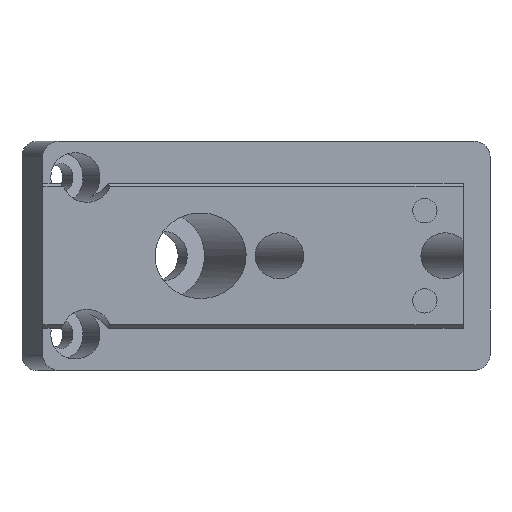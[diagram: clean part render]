
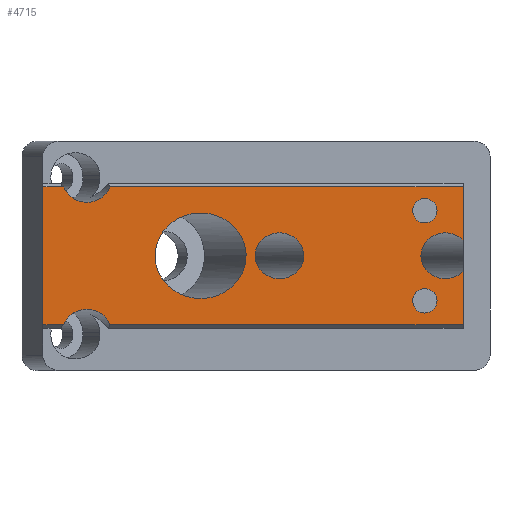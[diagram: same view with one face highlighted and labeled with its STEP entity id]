
A CAD part, top view. The second image highlights one B-rep face of the part: STEP entity #4715.
In plain terms, the highlighted planar face has unit normal (0, 0, 1).
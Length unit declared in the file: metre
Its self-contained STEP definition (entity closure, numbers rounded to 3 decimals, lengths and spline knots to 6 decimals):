
#240=ELLIPSE('',#5015,0.005959,0.0056);
#241=ELLIPSE('',#5016,0.003193,0.003);
#242=ELLIPSE('',#5019,0.003193,0.003);
#243=ELLIPSE('',#5020,0.003193,0.003);
#244=ELLIPSE('',#5021,0.003193,0.003);
#335=CIRCLE('',#5017,0.0016);
#336=CIRCLE('',#5018,0.0016);
#450=ORIENTED_EDGE('',*,*,#1892,.T.);
#451=ORIENTED_EDGE('',*,*,#1893,.T.);
#452=ORIENTED_EDGE('',*,*,#1894,.T.);
#453=ORIENTED_EDGE('',*,*,#1895,.T.);
#454=ORIENTED_EDGE('',*,*,#1896,.F.);
#455=ORIENTED_EDGE('',*,*,#1897,.T.);
#456=ORIENTED_EDGE('',*,*,#1898,.F.);
#457=ORIENTED_EDGE('',*,*,#1899,.T.);
#458=ORIENTED_EDGE('',*,*,#1900,.F.);
#459=ORIENTED_EDGE('',*,*,#1901,.T.);
#460=ORIENTED_EDGE('',*,*,#1902,.T.);
#461=ORIENTED_EDGE('',*,*,#1903,.T.);
#462=ORIENTED_EDGE('',*,*,#1904,.F.);
#463=ORIENTED_EDGE('',*,*,#1905,.T.);
#1892=EDGE_CURVE('',#2613,#2613,#240,.T.);
#1893=EDGE_CURVE('',#2614,#2614,#241,.T.);
#1894=EDGE_CURVE('',#2615,#2615,#335,.T.);
#1895=EDGE_CURVE('',#2616,#2616,#336,.T.);
#1896=EDGE_CURVE('',#2617,#2618,#3079,.T.);
#1897=EDGE_CURVE('',#2617,#2619,#242,.T.);
#1898=EDGE_CURVE('',#2620,#2619,#3080,.T.);
#1899=EDGE_CURVE('',#2620,#2621,#3081,.T.);
#1900=EDGE_CURVE('',#2622,#2621,#243,.F.);
#1901=EDGE_CURVE('',#2622,#2623,#3082,.T.);
#1902=EDGE_CURVE('',#2623,#2624,#3083,.T.);
#1903=EDGE_CURVE('',#2624,#2625,#3084,.T.);
#1904=EDGE_CURVE('',#2626,#2625,#244,.F.);
#1905=EDGE_CURVE('',#2626,#2618,#3085,.T.);
#2613=VERTEX_POINT('',#6458);
#2614=VERTEX_POINT('',#6460);
#2615=VERTEX_POINT('',#6462);
#2616=VERTEX_POINT('',#6464);
#2617=VERTEX_POINT('',#6466);
#2618=VERTEX_POINT('',#6467);
#2619=VERTEX_POINT('',#6469);
#2620=VERTEX_POINT('',#6471);
#2621=VERTEX_POINT('',#6473);
#2622=VERTEX_POINT('',#6475);
#2623=VERTEX_POINT('',#6477);
#2624=VERTEX_POINT('',#6479);
#2625=VERTEX_POINT('',#6481);
#2626=VERTEX_POINT('',#6483);
#3079=LINE('',#6465,#3531);
#3080=LINE('',#6470,#3532);
#3081=LINE('',#6472,#3533);
#3082=LINE('',#6476,#3534);
#3083=LINE('',#6478,#3535);
#3084=LINE('',#6480,#3536);
#3085=LINE('',#6484,#3537);
#3531=VECTOR('',#5378,1.);
#3532=VECTOR('',#5381,1.);
#3533=VECTOR('',#5382,1.);
#3534=VECTOR('',#5385,1.);
#3535=VECTOR('',#5386,1.);
#3536=VECTOR('',#5387,1.);
#3537=VECTOR('',#5390,1.);
#3970=EDGE_LOOP('',(#450));
#3971=EDGE_LOOP('',(#451));
#3972=EDGE_LOOP('',(#452));
#3973=EDGE_LOOP('',(#453));
#3974=EDGE_LOOP('',(#454,#455,#456,#457,#458,#459,#460,#461,#462,#463));
#4276=FACE_BOUND('',#3970,.T.);
#4277=FACE_BOUND('',#3971,.T.);
#4278=FACE_BOUND('',#3972,.T.);
#4279=FACE_BOUND('',#3973,.T.);
#4280=FACE_BOUND('',#3974,.T.);
#4574=PLANE('',#5014);
#4715=ADVANCED_FACE('',(#4276,#4277,#4278,#4279,#4280),#4574,.F.);
#5014=AXIS2_PLACEMENT_3D('',#6456,#5368,#5369);
#5015=AXIS2_PLACEMENT_3D('',#6457,#5370,#5371);
#5016=AXIS2_PLACEMENT_3D('',#6459,#5372,#5373);
#5017=AXIS2_PLACEMENT_3D('',#6461,#5374,#5375);
#5018=AXIS2_PLACEMENT_3D('',#6463,#5376,#5377);
#5019=AXIS2_PLACEMENT_3D('',#6468,#5379,#5380);
#5020=AXIS2_PLACEMENT_3D('',#6474,#5383,#5384);
#5021=AXIS2_PLACEMENT_3D('',#6482,#5388,#5389);
#5368=DIRECTION('',(0.,0.,-1.));
#5369=DIRECTION('',(-1.,0.,0.));
#5370=DIRECTION('',(0.,0.,-1.));
#5371=DIRECTION('',(-1.,0.,0.));
#5372=DIRECTION('',(0.,0.,-1.));
#5373=DIRECTION('',(-1.,0.,0.));
#5374=DIRECTION('',(0.,0.,-1.));
#5375=DIRECTION('',(-1.,0.,0.));
#5376=DIRECTION('',(0.,0.,-1.));
#5377=DIRECTION('',(-1.,0.,0.));
#5378=DIRECTION('',(0.,-1.,0.));
#5379=DIRECTION('',(0.,0.,-1.));
#5380=DIRECTION('',(-1.,0.,0.));
#5381=DIRECTION('',(0.,-1.,0.));
#5382=DIRECTION('',(-1.,0.,0.));
#5383=DIRECTION('',(0.,0.,-1.));
#5384=DIRECTION('',(-1.,0.,0.));
#5385=DIRECTION('',(-1.,0.,0.));
#5386=DIRECTION('',(0.,-1.,0.));
#5387=DIRECTION('',(1.,0.,0.));
#5388=DIRECTION('',(0.,0.,-1.));
#5389=DIRECTION('',(-1.,0.,0.));
#5390=DIRECTION('',(1.,0.,0.));
#6456=CARTESIAN_POINT('',(0.055,0.,0.0041));
#6457=CARTESIAN_POINT('',(0.020647,0.,0.0041));
#6458=CARTESIAN_POINT('',(0.014688,0.,0.0041));
#6459=CARTESIAN_POINT('',(0.03097,0.,0.0041));
#6460=CARTESIAN_POINT('',(0.027777,0.,0.0041));
#6461=CARTESIAN_POINT('',(0.05,0.0059,0.0041));
#6462=CARTESIAN_POINT('',(0.0484,0.0059,0.0041));
#6463=CARTESIAN_POINT('',(0.05,-0.0059,0.0041));
#6464=CARTESIAN_POINT('',(0.0484,-0.0059,0.0041));
#6465=CARTESIAN_POINT('',(0.055,0.,0.0041));
#6466=CARTESIAN_POINT('',(0.055,-0.00206,0.0041));
#6467=CARTESIAN_POINT('',(0.055,-0.009004,0.0041));
#6468=CARTESIAN_POINT('',(0.052679,0.,0.0041));
#6469=CARTESIAN_POINT('',(0.055,0.00206,0.0041));
#6470=CARTESIAN_POINT('',(0.055,0.,0.0041));
#6471=CARTESIAN_POINT('',(0.055,0.009004,0.0041));
#6472=CARTESIAN_POINT('',(0.,0.009004,0.0041));
#6473=CARTESIAN_POINT('',(0.008761,0.009004,0.0041));
#6474=CARTESIAN_POINT('',(0.005749,0.01,0.0041));
#6475=CARTESIAN_POINT('',(0.002737,0.009004,0.0041));
#6476=CARTESIAN_POINT('',(0.,0.009004,0.0041));
#6477=CARTESIAN_POINT('',(0.,0.009004,0.0041));
#6478=CARTESIAN_POINT('',(0.,0.,0.0041));
#6479=CARTESIAN_POINT('',(0.,-0.009004,0.0041));
#6480=CARTESIAN_POINT('',(0.055,-0.009004,0.0041));
#6481=CARTESIAN_POINT('',(0.002737,-0.009004,0.0041));
#6482=CARTESIAN_POINT('',(0.005749,-0.01,0.0041));
#6483=CARTESIAN_POINT('',(0.008761,-0.009004,0.0041));
#6484=CARTESIAN_POINT('',(0.055,-0.009004,0.0041));
